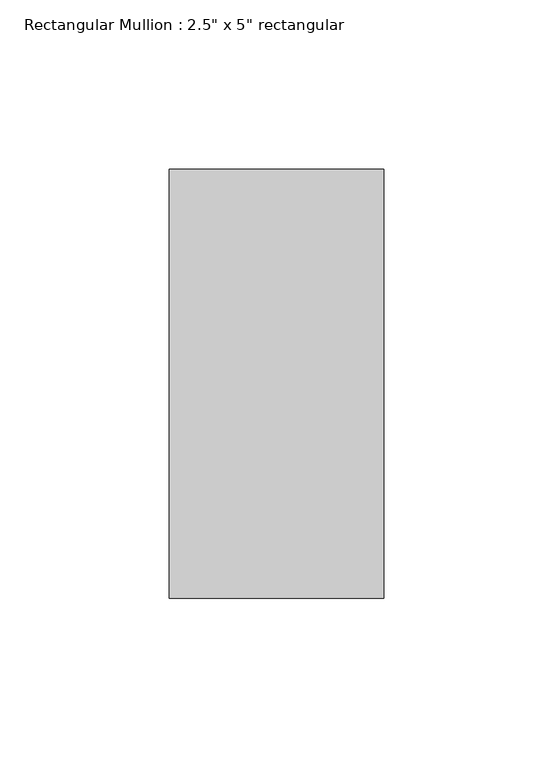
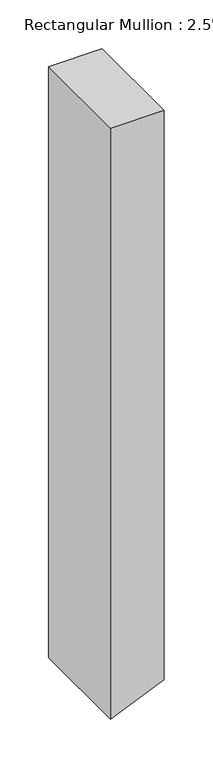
"""IFC4 building model written with IfcOpenShell, lengths in millimetres: member geometry."""

from ifc_helpers import new_model, si_unit, frame, origin, place, context, project, spatial, circle_curve, source, transform, mapped, element, save
from ifc_brep_helpers import plane_surface, cylinder_surface, advanced_brep


def member_c2258df4(model_context):
    return source(origin(), model_context, "Body", "AdvancedBrep", [
        advanced_brep(
        [(31.75, 63.5, 0.0), (-31.75, 63.5, 0.0), (-31.75, -63.5, 0.0), (31.75, -63.5, 0.0), (31.75, 63.5, -713.0255648), (-24.422947, 63.5, -736.9488464), (-31.75, 63.5, -739.9930403), (-31.75, -63.5, -739.9930403), (-24.422947, -63.5, -736.9488464), (31.75, -63.5, -713.0255648)],
        [
            (0, 1),
            (1, 2),
            (2, 3),
            (3, 0),
            (0, 4),
            (4, 5, circle_curve(frame((-1524.0, 63.5, 2862.0357141), z_axis=(0.0, 1.0, 0.0), x_axis=(0.6923076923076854, 0.0, -0.7216024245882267)), 3898.9)),
            (5, 6, circle_curve(frame((-1524.0, 63.5, 2862.0357141), z_axis=(0.0, 1.0, 0.0), x_axis=(0.3846153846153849, 0.0, -0.923076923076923)), 3898.9)),
            (6, 1),
            (6, 7),
            (7, 2),
            (7, 8, circle_curve(frame((-1524.0, -63.5, 2862.0357141), z_axis=(0.0, -1.0, 0.0), x_axis=(0.3846153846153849, 0.0, -0.923076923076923)), 3898.9)),
            (8, 9, circle_curve(frame((-1524.0, -63.5, 2862.0357141), z_axis=(0.0, -1.0, 0.0), x_axis=(0.6923076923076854, 0.0, -0.7216024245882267)), 3898.9)),
            (9, 3),
            (9, 4),
            (8, 5),
        ],
        [
            plane_surface(frame((0.0, -70.9951583, 0.0), z_axis=(0.0, 0.0, 1.0), x_axis=(-1.0, 0.0, 0.0))),
            plane_surface(frame((31.75, 63.5, 0.0), z_axis=(0.0, 1.0, 0.0), x_axis=(0.0, 0.0, -1.0))),
            plane_surface(frame((-31.75, 63.5, 0.0), z_axis=(-1.0, 0.0, 0.0), x_axis=(0.0, 0.0, -1.0))),
            plane_surface(frame((-31.75, -63.5, 0.0), z_axis=(0.0, -1.0, 0.0), x_axis=(0.0, 0.0, -1.0))),
            plane_surface(frame((31.75, -63.5, 0.0), z_axis=(1.0, 0.0, 0.0), x_axis=(0.0, 0.0, -1.0))),
            cylinder_surface(frame((-1524.0, 0.0, 2862.0357141), z_axis=(0.0, 1.0, 0.0), x_axis=(0.6923076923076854, 0.0, -0.7216024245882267)), 3898.9),
            cylinder_surface(frame((-1524.0, 0.0, 2862.0357141), z_axis=(0.0, 1.0000000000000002, 0.0), x_axis=(0.3846153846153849, 0.0, -0.923076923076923)), 3898.9),
        ],
        [
            (0, [[1, 2, 3, 4]]),
            (1, [[-1, 5, 6, 7, 8]]),
            (2, [[-2, -8, 9, 10]]),
            (3, [[-3, -10, 11, 12, 13]]),
            (4, [[-4, -13, 14, -5]]),
            (5, [[-14, -12, 15, -6]]),
            (6, [[-11, -9, -7, -15]]),
        ],
    ),
    ])


if __name__ == "__main__":
    model = new_model("IFC4")
    model_context = context("Model", 3, world=origin())
    ifc_project = project(units=[si_unit("LENGTHUNIT", "METRE", prefix="MILLI")], contexts=[model_context])
    site = spatial("IfcSite", under=ifc_project)
    building = spatial("IfcBuilding", under=site)
    placement = place(None, origin())
    member_shape = member_c2258df4(model_context)
    element("IfcMember", 1, ObjectType="Rectangular Mullion : 2.5\" x 5\" rectangular", at=placement, inside=building, context=model_context, shape_type="MappedRepresentation", body=[
        mapped(member_shape, transform((0.0, 0.0, 0.0), x_axis=(1.0, 0.0, 0.0), y_axis=(0.0, 1.0, 0.0), z_axis=(0.0, 0.0, 1.0))),
    ])
    save(model, "model.ifc")
